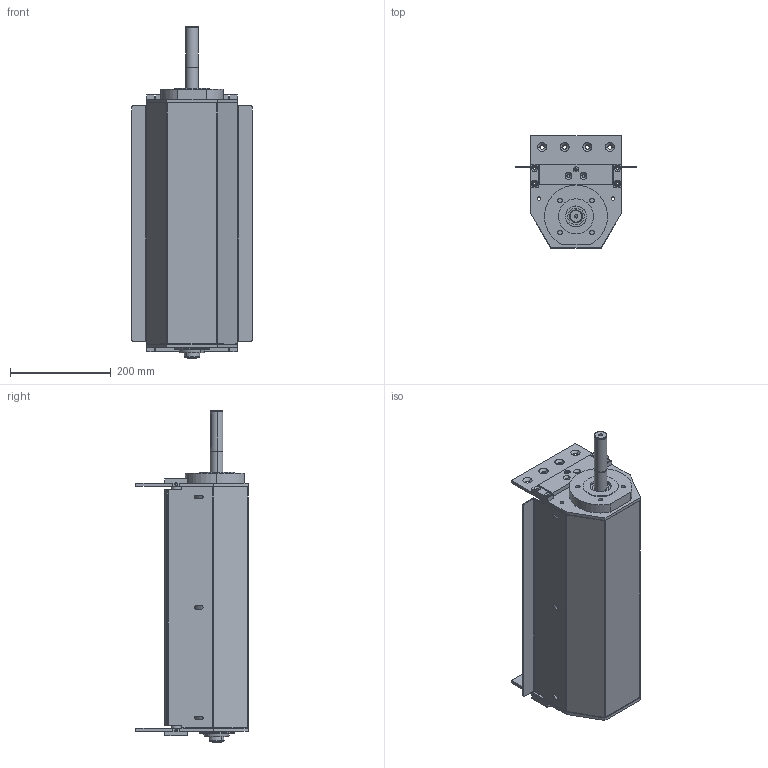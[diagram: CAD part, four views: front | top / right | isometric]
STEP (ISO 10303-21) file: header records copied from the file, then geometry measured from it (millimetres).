
FILE_DESCRIPTION (( 'STEP AP203' ), '1' );
FILE_NAME ('084.050.KCS.49.450.STEP', '2019-07-29T13:53:12', ( '' ), ( '' ), 'SwSTEP 2.0', 'SolidWorks 2018', '' );
FILE_SCHEMA (( 'CONFIG_CONTROL_DESIGN' ));
Length unit declared in the file: millimetre
Products named in the file (15): 084.050.KCS.49.450; 084.812.003; 084.802.021; 084.802.004-1; 084.810.003; CUSCINETTI A SFERE_6004-2RS; 084.817.089; 084.817.088_Default<A macchina>; 084.817.087; 084.802.003; 084.814.003-1; 084.802.020; 084.802.012_Solo centrale; 084.817.086; 084.802.011
Assembly tree (25 placements, depth 2):
  084.050.KCS.49.450
    084.817.086  x2
    084.817.088_Default<A macchina>
    084.802.011
    084.802.021
    084.814.003-1
    084.810.003  x2
    084.802.004-1  x4
    084.802.020
    084.812.003
    084.802.003  x2
    CUSCINETTI A SFERE_6004-2RS  x4
    084.802.012_Solo centrale  x2
    084.817.089
    084.817.087  x2
Bounding box: 240 x 223 x 660 mm (x, y, z)
Volume: 3250775.1 mm3; surface area: 1580645.1 mm2
Topology: 27 solids, 27 shells, 995 faces, 2472 edges, 1585 vertices
Faces by surface type: plane 423, cylinder 350, cone 144, torus 68, sphere 10
Entity records: 21016 total; most frequent: DIRECTION 3537, CARTESIAN_POINT 3343, ORIENTED_EDGE 3104, EDGE_CURVE 1552, AXIS2_PLACEMENT_3D 1342, VERTEX_POINT 1000, LINE 853, VECTOR 853
